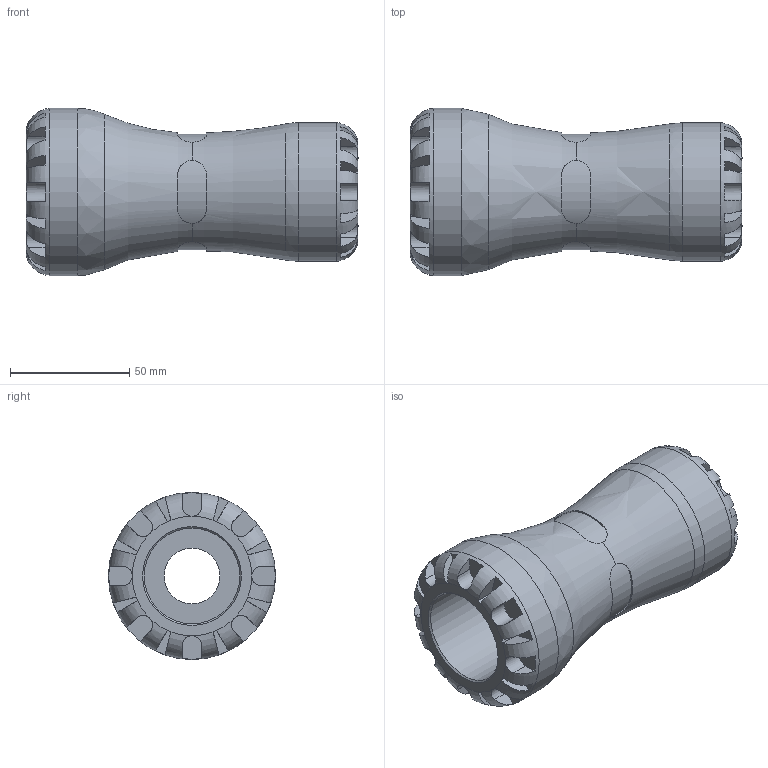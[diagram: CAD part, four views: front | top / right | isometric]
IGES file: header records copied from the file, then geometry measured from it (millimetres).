
Global section: file name: 1001C0040028_1901C0040028.ipt; native system: Autodesk Inventor 2015; preprocessor: unknown; author: KIM; date: 20170122.100503; units: millimetre
Bounding box: 139 x 70 x 70 mm (x, y, z)
Volume: 228571.4 mm3; surface area: 47769 mm2
Topology: 1 solids, 1 shells, 165 faces, 439 edges, 278 vertices
Faces by surface type: plane 108, revolution 35, cylinder 22
Full cylindrical faces by diameter (mm): 58 x1, 70 x1
